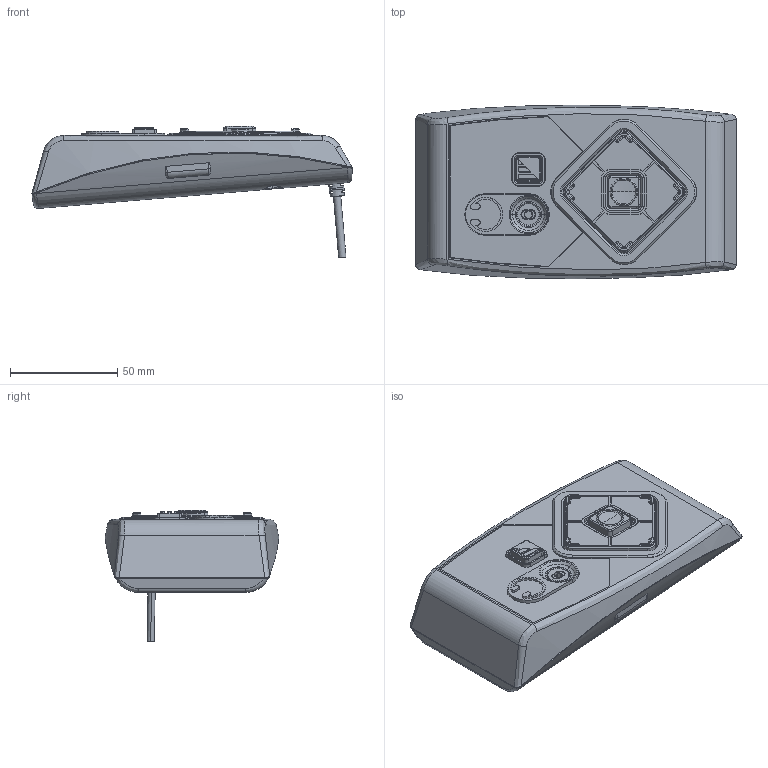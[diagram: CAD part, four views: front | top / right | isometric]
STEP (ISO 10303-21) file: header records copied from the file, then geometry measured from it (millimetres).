
FILE_DESCRIPTION (( 'STEP AP214' ), '1' );
FILE_NAME ('UNAV ACCESSIBILITY MODULE.STEP', '2018-01-30T10:09:27', ( '' ), ( '' ), 'SwSTEP 2.0', 'SolidWorks 2017', '' );
FILE_SCHEMA (( 'AUTOMOTIVE_DESIGN' ));
Length unit declared in the file: millimetre
Products named in the file (1): UNAV ACCESSIBILITY MODULE
Bounding box: 149.48 x 80.98 x 61.32 mm (x, y, z)
Surface area: 43038 mm2 (no closed solid volume)
Topology: 0 solids, 37 shells, 892 faces, 3170 edges, 2261 vertices
Faces by surface type: plane 371, bspline 164, cylinder 145, cone 134, torus 53, sphere 25
Entity records: 56469 total; most frequent: CARTESIAN_POINT 21887, ORIENTED_EDGE 4932, DIRECTION 4471, EDGE_CURVE 3169, VERTEX_POINT 2261, LINE 1669, VECTOR 1669, AXIS2_PLACEMENT_3D 1401
